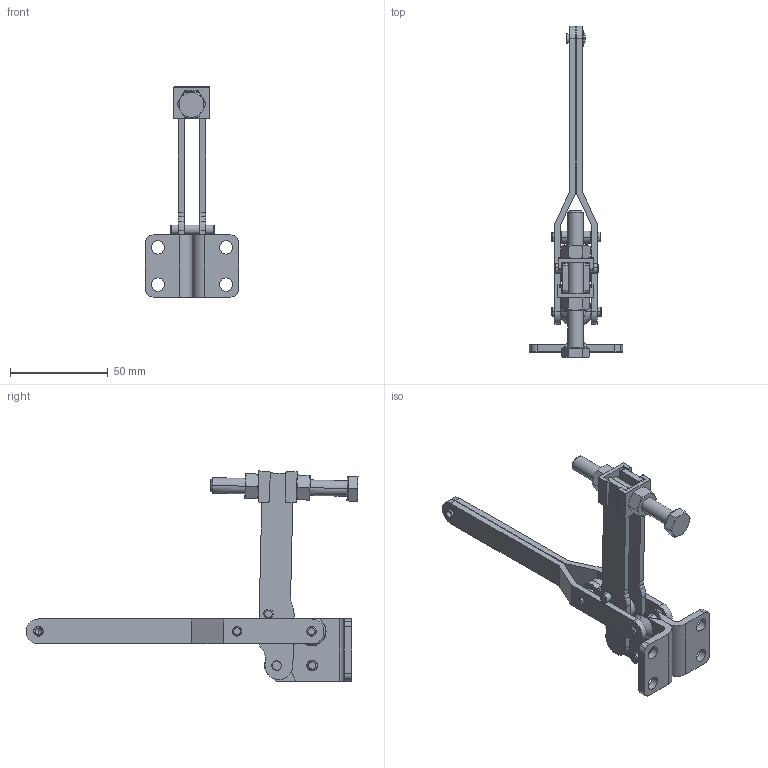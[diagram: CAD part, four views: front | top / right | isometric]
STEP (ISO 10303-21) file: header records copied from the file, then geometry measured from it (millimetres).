
FILE_DESCRIPTION((''),'2;1');
FILE_NAME('C:\1a10work\lapeer-mfg\200\rework\step\V-200.stp','2007-01-24T13:01:35',('rtaylor'),(''),'Autodesk Inventor 9','Autodesk Inventor 9','');
FILE_SCHEMA(('AUTOMOTIVE_DESIGN { 1 0 10303 214 1 1 1 1 }'));
Length unit declared in the file: inch
Products named in the file (14): V-200; 100012; 120002-L; 120002-R; 130028; 150009; 150088; 150089; N-470005; 171009; 4  UNC; 16 - 18; 110004-RL; 150042
Assembly tree (21 placements, depth 3):
  V-200
    100012  x2
    120002-L
    120002-R
    130028  x2
    150009  x2
    150088  x2
    150089  x2
    N-470005
      171009  x2
      4  UNC
      16 - 18  x2
    110004-RL  x2
    150042
Bounding box: 47.65 x 169.82 x 107.45 mm (x, y, z)
Volume: 43779.2 mm3; surface area: 35870.6 mm2
Topology: 20 solids, 20 shells, 461 faces, 1117 edges, 699 vertices
Faces by surface type: cylinder 153, plane 128, bspline 94, cone 54, torus 25, sphere 7
Entity records: 11872 total; most frequent: CARTESIAN_POINT 4194, DIRECTION 1599, ORIENTED_EDGE 1516, EDGE_CURVE 758, AXIS2_PLACEMENT_3D 650, VERTEX_POINT 477, CIRCLE 385, EDGE_LOOP 359
